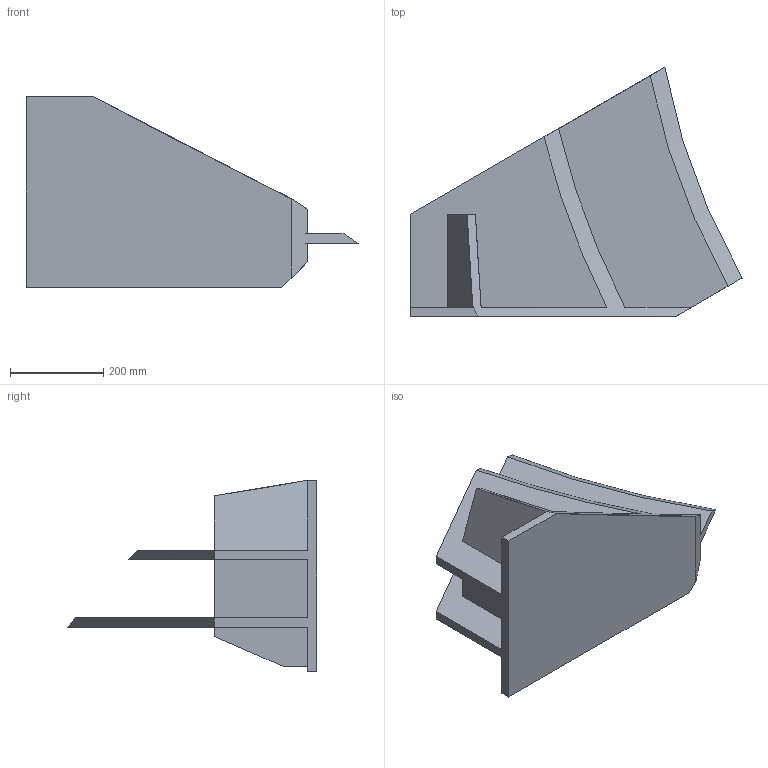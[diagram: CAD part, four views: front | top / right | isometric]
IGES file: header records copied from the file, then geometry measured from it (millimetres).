
Start section:  PTC IGES file: hinge_upper_weldment_af0.igs
Global section: file name: hinge_upper_weldment_af0.igs; native system: Pro/ENGINEER by Parametric Technology Corporation; preprocessor: 1999260; author: oshatz; organization: Unknown; date: 000922.101729; units: millimetre
Bounding box: 712.99 x 536.03 x 410 mm (x, y, z)
Surface area: 1337371.9 mm2 (no closed solid volume)
Topology: 0 solids, 0 shells, 44 faces, 252 edges, 252 vertices
Faces by surface type: bspline 42, revolution 2
